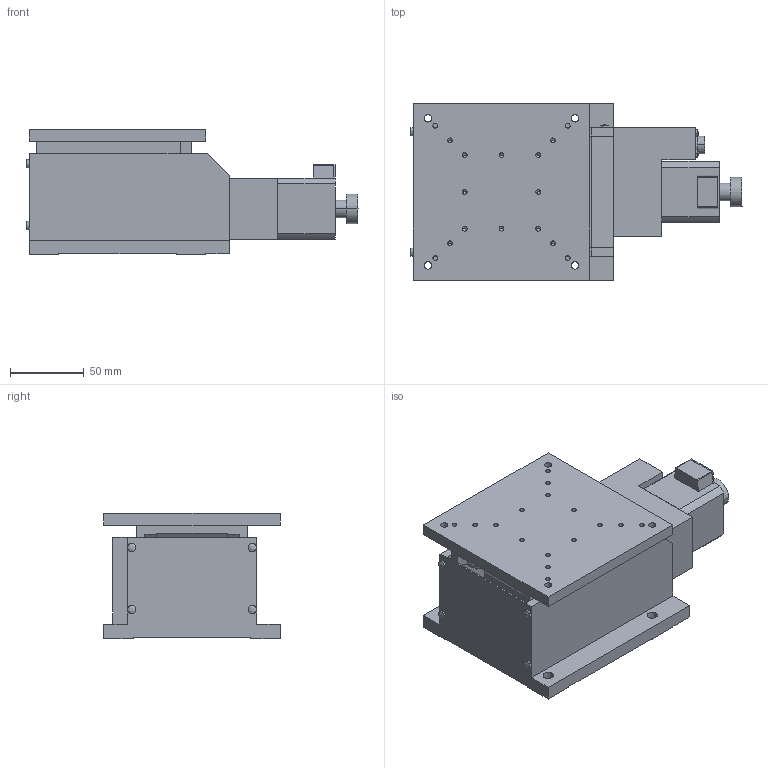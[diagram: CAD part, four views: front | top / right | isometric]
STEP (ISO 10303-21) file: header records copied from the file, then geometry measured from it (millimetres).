
FILE_DESCRIPTION(('STEP AP214'),'1');
FILE_NAME('C:/Users/09933/Desktop/KS332-12/KS332-12C1.step','2018-06-01T08:42:36',(' '),(' '),'Spatial InterOp 3D',' ',' ');
FILE_SCHEMA(('automotive_design'));
Length unit declared in the file: millimetre
Products named in the file (4): 1; 2; 3; 4
Bounding box: 225.7 x 120 x 85 mm (x, y, z)
Volume: 1043515.6 mm3; surface area: 190405.1 mm2
Topology: 4 solids, 6 shells, 397 faces, 1024 edges, 655 vertices
Faces by surface type: plane 215, cylinder 136, cone 28, bspline 18
Entity records: 15629 total; most frequent: CARTESIAN_POINT 2662, DIRECTION 2002, ORIENTED_EDGE 1992, EDGE_CURVE 996, LINE 716, VECTOR 716, VERTEX_POINT 655, AXIS2_PLACEMENT_3D 643
